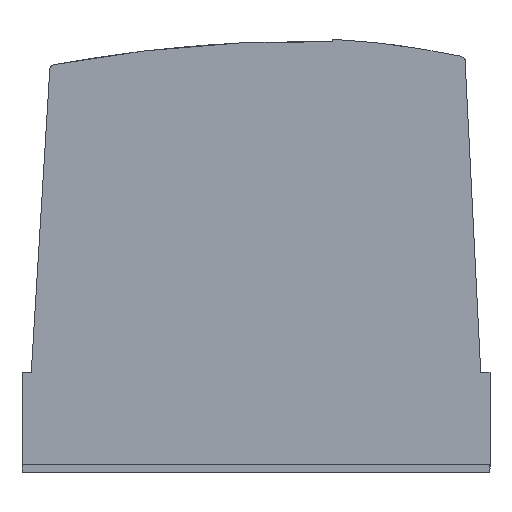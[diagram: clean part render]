
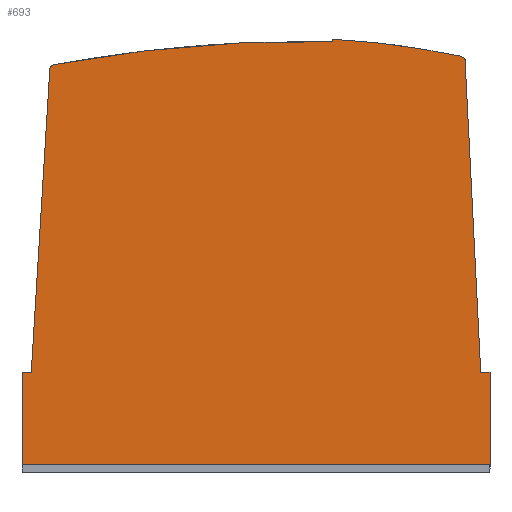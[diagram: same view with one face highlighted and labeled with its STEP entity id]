
A CAD part, top view. The second image highlights one B-rep face of the part: STEP entity #693.
In plain terms, the highlighted planar face has unit normal (0, 0, 1).
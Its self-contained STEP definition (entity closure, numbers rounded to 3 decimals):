
#72 = EDGE_LOOP ( 'NONE', ( #9957, #11395, #349, #9768, #11162, #87, #8562, #8312, #2019, #2409, #6680, #6649, #8789, #4434, #4999, #11014, #3936, #536 ) ) ;
#87 = ORIENTED_EDGE ( 'NONE', *, *, #7252, .T. ) ;
#199 = CARTESIAN_POINT ( 'NONE',  ( -86.203, -125.567, 178. ) ) ;
#217 = VERTEX_POINT ( 'NONE', #9091 ) ;
#243 = AXIS2_PLACEMENT_3D ( 'NONE', #7688, #2404, #5170 ) ;
#248 = EDGE_CURVE ( 'NONE', #217, #6737, #3858, .T. ) ;
#276 = DIRECTION ( 'NONE',  ( 1., 0., 0. ) ) ;
#349 = ORIENTED_EDGE ( 'NONE', *, *, #248, .T. ) ;
#372 = AXIS2_PLACEMENT_3D ( 'NONE', #3997, #11138, #276 ) ;
#409 = CARTESIAN_POINT ( 'NONE',  ( 115.746, -74.567, 178. ) ) ;
#463 = VECTOR ( 'NONE', #3359, 1000. ) ;
#536 = ORIENTED_EDGE ( 'NONE', *, *, #2439, .T. ) ;
#658 = DIRECTION ( 'NONE',  ( -1., 0., 0. ) ) ;
#693 = ADVANCED_FACE ( 'NONE', ( #1446 ), #3842, .F. ) ;
#714 = DIRECTION ( 'NONE',  ( 0., 0., 1. ) ) ;
#827 = LINE ( 'NONE', #9982, #6316 ) ;
#937 = VERTEX_POINT ( 'NONE', #10143 ) ;
#1027 = CARTESIAN_POINT ( 'NONE',  ( 106.96, 97.415, 178. ) ) ;
#1052 = EDGE_CURVE ( 'NONE', #6737, #7586, #3980, .T. ) ;
#1121 = VERTEX_POINT ( 'NONE', #10363 ) ;
#1153 = CIRCLE ( 'NONE', #243, 1.094 ) ;
#1175 = VERTEX_POINT ( 'NONE', #6120 ) ;
#1283 = DIRECTION ( 'NONE',  ( -1., 0., 0. ) ) ;
#1436 = DIRECTION ( 'NONE',  ( 0., 0., -1. ) ) ;
#1446 = FACE_OUTER_BOUND ( 'NONE', #72, .T. ) ;
#1485 = CIRCLE ( 'NONE', #9062, 458.909 ) ;
#1576 = LINE ( 'NONE', #7638, #8422 ) ;
#1744 = DIRECTION ( 'NONE',  ( 0., 0., -1. ) ) ;
#1879 = CARTESIAN_POINT ( 'NONE',  ( -131.041, -74.567, 178. ) ) ;
#1951 = EDGE_CURVE ( 'NONE', #7586, #1121, #2678, .T. ) ;
#1965 = VECTOR ( 'NONE', #8715, 1000. ) ;
#2019 = ORIENTED_EDGE ( 'NONE', *, *, #2834, .T. ) ;
#2031 = CARTESIAN_POINT ( 'NONE',  ( 9.641, -125.567, 178. ) ) ;
#2150 = VECTOR ( 'NONE', #8121, 1000. ) ;
#2175 = AXIS2_PLACEMENT_3D ( 'NONE', #10274, #1436, #5839 ) ;
#2233 = DIRECTION ( 'NONE',  ( -1., 0., 0. ) ) ;
#2266 = CARTESIAN_POINT ( 'NONE',  ( 120.854, -74.567, 178. ) ) ;
#2391 = CARTESIAN_POINT ( 'NONE',  ( 107.173, 96.677, 178. ) ) ;
#2404 = DIRECTION ( 'NONE',  ( 0., 0., 1. ) ) ;
#2409 = ORIENTED_EDGE ( 'NONE', *, *, #6621, .T. ) ;
#2439 = EDGE_CURVE ( 'NONE', #8034, #8288, #4363, .T. ) ;
#2446 = DIRECTION ( 'NONE',  ( -0.01, -1., 0. ) ) ;
#2492 = CARTESIAN_POINT ( 'NONE',  ( 9.641, -125.567, 178. ) ) ;
#2640 = DIRECTION ( 'NONE',  ( -1., 0., 0. ) ) ;
#2678 = LINE ( 'NONE', #5987, #4241 ) ;
#2787 = DIRECTION ( 'NONE',  ( 1., 0., 0. ) ) ;
#2834 = EDGE_CURVE ( 'NONE', #1175, #7024, #5900, .T. ) ;
#2884 = VERTEX_POINT ( 'NONE', #2266 ) ;
#3211 = LINE ( 'NONE', #409, #10483 ) ;
#3276 = CARTESIAN_POINT ( 'NONE',  ( 34.111, 107.07, 178. ) ) ;
#3359 = DIRECTION ( 'NONE',  ( 1., 0., 0. ) ) ;
#3409 = CARTESIAN_POINT ( 'NONE',  ( 34.122, 108.175, 178. ) ) ;
#3437 = EDGE_CURVE ( 'NONE', #10573, #8034, #827, .T. ) ;
#3448 = VECTOR ( 'NONE', #2446, 1000. ) ;
#3822 = DIRECTION ( 'NONE',  ( -0.061, -0.998, 0. ) ) ;
#3842 = PLANE ( 'NONE',  #4184 ) ;
#3858 = LINE ( 'NONE', #2031, #2150 ) ;
#3872 = CIRCLE ( 'NONE', #372, 4.709 ) ;
#3936 = ORIENTED_EDGE ( 'NONE', *, *, #3437, .T. ) ;
#3980 = LINE ( 'NONE', #10294, #7191 ) ;
#3997 = CARTESIAN_POINT ( 'NONE',  ( 103.393, 94.342, 178. ) ) ;
#4014 = DIRECTION ( 'NONE',  ( -0.05, 0.999, 0. ) ) ;
#4156 = AXIS2_PLACEMENT_3D ( 'NONE', #8467, #6667, #1283 ) ;
#4184 = AXIS2_PLACEMENT_3D ( 'NONE', #6227, #1744, #2640 ) ;
#4199 = DIRECTION ( 'NONE',  ( 0., 0., 1. ) ) ;
#4241 = VECTOR ( 'NONE', #11559, 1000. ) ;
#4363 = LINE ( 'NONE', #6185, #1965 ) ;
#4434 = ORIENTED_EDGE ( 'NONE', *, *, #7335, .T. ) ;
#4481 = CARTESIAN_POINT ( 'NONE',  ( 104.542, 98.908, 178. ) ) ;
#4552 = CIRCLE ( 'NONE', #2175, 0.361 ) ;
#4619 = CIRCLE ( 'NONE', #4156, 759.998 ) ;
#4702 = EDGE_CURVE ( 'NONE', #10912, #937, #7903, .T. ) ;
#4739 = EDGE_CURVE ( 'NONE', #10931, #10912, #1485, .T. ) ;
#4873 = VERTEX_POINT ( 'NONE', #5209 ) ;
#4999 = ORIENTED_EDGE ( 'NONE', *, *, #8293, .T. ) ;
#5170 = DIRECTION ( 'NONE',  ( 1., 0., 0. ) ) ;
#5209 = CARTESIAN_POINT ( 'NONE',  ( 120.854, -125.567, 178. ) ) ;
#5286 = EDGE_CURVE ( 'NONE', #9015, #10931, #3872, .T. ) ;
#5789 = VECTOR ( 'NONE', #8908, 1000. ) ;
#5839 = DIRECTION ( 'NONE',  ( -1., 0., 0. ) ) ;
#5900 = LINE ( 'NONE', #7375, #10789 ) ;
#5940 = VECTOR ( 'NONE', #2787, 1000. ) ;
#5987 = CARTESIAN_POINT ( 'NONE',  ( 9.641, -125.567, 178. ) ) ;
#6089 = LINE ( 'NONE', #2492, #463 ) ;
#6120 = CARTESIAN_POINT ( 'NONE',  ( 115.746, -74.567, 178. ) ) ;
#6185 = CARTESIAN_POINT ( 'NONE',  ( -136.146, -74.567, 178. ) ) ;
#6227 = CARTESIAN_POINT ( 'NONE',  ( 9.641, -350.081, 178. ) ) ;
#6316 = VECTOR ( 'NONE', #3822, 1000. ) ;
#6354 = CARTESIAN_POINT ( 'NONE',  ( -136.146, -74.567, 178. ) ) ;
#6367 = CARTESIAN_POINT ( 'NONE',  ( 9.641, -125.567, 178. ) ) ;
#6521 = EDGE_CURVE ( 'NONE', #8425, #217, #6089, .T. ) ;
#6531 = CARTESIAN_POINT ( 'NONE',  ( 33.907, 106.897, 178. ) ) ;
#6621 = EDGE_CURVE ( 'NONE', #7024, #9015, #1153, .T. ) ;
#6649 = ORIENTED_EDGE ( 'NONE', *, *, #4739, .T. ) ;
#6667 = DIRECTION ( 'NONE',  ( 0., 0., 1. ) ) ;
#6680 = ORIENTED_EDGE ( 'NONE', *, *, #5286, .T. ) ;
#6737 = VERTEX_POINT ( 'NONE', #199 ) ;
#6990 = DIRECTION ( 'NONE',  ( -1., 0., 0. ) ) ;
#7024 = VERTEX_POINT ( 'NONE', #2391 ) ;
#7191 = VECTOR ( 'NONE', #8491, 1000. ) ;
#7233 = VERTEX_POINT ( 'NONE', #6531 ) ;
#7252 = EDGE_CURVE ( 'NONE', #1121, #4873, #9977, .T. ) ;
#7335 = EDGE_CURVE ( 'NONE', #937, #7233, #4552, .T. ) ;
#7375 = CARTESIAN_POINT ( 'NONE',  ( 107.173, 96.677, 178. ) ) ;
#7472 = CARTESIAN_POINT ( 'NONE',  ( -136.146, -125.567, 178. ) ) ;
#7586 = VERTEX_POINT ( 'NONE', #10820 ) ;
#7638 = CARTESIAN_POINT ( 'NONE',  ( -136.146, -74.567, 178. ) ) ;
#7688 = CARTESIAN_POINT ( 'NONE',  ( 106.083, 96.762, 178. ) ) ;
#7742 = CARTESIAN_POINT ( 'NONE',  ( -118.459, 94.282, 178. ) ) ;
#7761 = EDGE_CURVE ( 'NONE', #2884, #1175, #3211, .T. ) ;
#7903 = LINE ( 'NONE', #3276, #3448 ) ;
#7977 = CARTESIAN_POINT ( 'NONE',  ( 120.854, -74.567, 178. ) ) ;
#7992 = EDGE_CURVE ( 'NONE', #10817, #10573, #8514, .T. ) ;
#8034 = VERTEX_POINT ( 'NONE', #1879 ) ;
#8121 = DIRECTION ( 'NONE',  ( 1., 0., 0. ) ) ;
#8288 = VERTEX_POINT ( 'NONE', #6354 ) ;
#8293 = EDGE_CURVE ( 'NONE', #7233, #10817, #4619, .T. ) ;
#8312 = ORIENTED_EDGE ( 'NONE', *, *, #7761, .T. ) ;
#8422 = VECTOR ( 'NONE', #9415, 1000. ) ;
#8425 = VERTEX_POINT ( 'NONE', #7472 ) ;
#8467 = CARTESIAN_POINT ( 'NONE',  ( 20.11, -652.976, 178. ) ) ;
#8491 = DIRECTION ( 'NONE',  ( 1., 0., 0. ) ) ;
#8514 = CIRCLE ( 'NONE', #9328, 3.013 ) ;
#8562 = ORIENTED_EDGE ( 'NONE', *, *, #10608, .T. ) ;
#8715 = DIRECTION ( 'NONE',  ( -1., 0., 0. ) ) ;
#8789 = ORIENTED_EDGE ( 'NONE', *, *, #4702, .T. ) ;
#8908 = DIRECTION ( 'NONE',  ( 0., 1., 0. ) ) ;
#9015 = VERTEX_POINT ( 'NONE', #1027 ) ;
#9062 = AXIS2_PLACEMENT_3D ( 'NONE', #11226, #4199, #658 ) ;
#9091 = CARTESIAN_POINT ( 'NONE',  ( -99.478, -125.567, 178. ) ) ;
#9328 = AXIS2_PLACEMENT_3D ( 'NONE', #10526, #714, #6990 ) ;
#9415 = DIRECTION ( 'NONE',  ( 0., -1., 0. ) ) ;
#9726 = EDGE_CURVE ( 'NONE', #8288, #8425, #1576, .T. ) ;
#9768 = ORIENTED_EDGE ( 'NONE', *, *, #1052, .T. ) ;
#9957 = ORIENTED_EDGE ( 'NONE', *, *, #9726, .T. ) ;
#9977 = LINE ( 'NONE', #6367, #5940 ) ;
#9982 = CARTESIAN_POINT ( 'NONE',  ( -120.892, 91.746, 178. ) ) ;
#10143 = CARTESIAN_POINT ( 'NONE',  ( 34.111, 107.07, 178. ) ) ;
#10274 = CARTESIAN_POINT ( 'NONE',  ( 33.792, 107.239, 178. ) ) ;
#10294 = CARTESIAN_POINT ( 'NONE',  ( 9.641, -125.567, 178. ) ) ;
#10363 = CARTESIAN_POINT ( 'NONE',  ( 104.407, -125.567, 178. ) ) ;
#10483 = VECTOR ( 'NONE', #2233, 1000. ) ;
#10526 = CARTESIAN_POINT ( 'NONE',  ( -117.91, 91.32, 178. ) ) ;
#10573 = VERTEX_POINT ( 'NONE', #11600 ) ;
#10608 = EDGE_CURVE ( 'NONE', #4873, #2884, #11370, .T. ) ;
#10789 = VECTOR ( 'NONE', #4014, 1000. ) ;
#10817 = VERTEX_POINT ( 'NONE', #7742 ) ;
#10820 = CARTESIAN_POINT ( 'NONE',  ( 91.126, -125.567, 178. ) ) ;
#10912 = VERTEX_POINT ( 'NONE', #3409 ) ;
#10931 = VERTEX_POINT ( 'NONE', #4481 ) ;
#11014 = ORIENTED_EDGE ( 'NONE', *, *, #7992, .T. ) ;
#11138 = DIRECTION ( 'NONE',  ( 0., 0., 1. ) ) ;
#11162 = ORIENTED_EDGE ( 'NONE', *, *, #1951, .T. ) ;
#11226 = CARTESIAN_POINT ( 'NONE',  ( 9.641, -350.081, 178. ) ) ;
#11370 = LINE ( 'NONE', #7977, #5789 ) ;
#11395 = ORIENTED_EDGE ( 'NONE', *, *, #6521, .T. ) ;
#11559 = DIRECTION ( 'NONE',  ( 1., 0., 0. ) ) ;
#11600 = CARTESIAN_POINT ( 'NONE',  ( -120.892, 91.746, 178. ) ) ;
